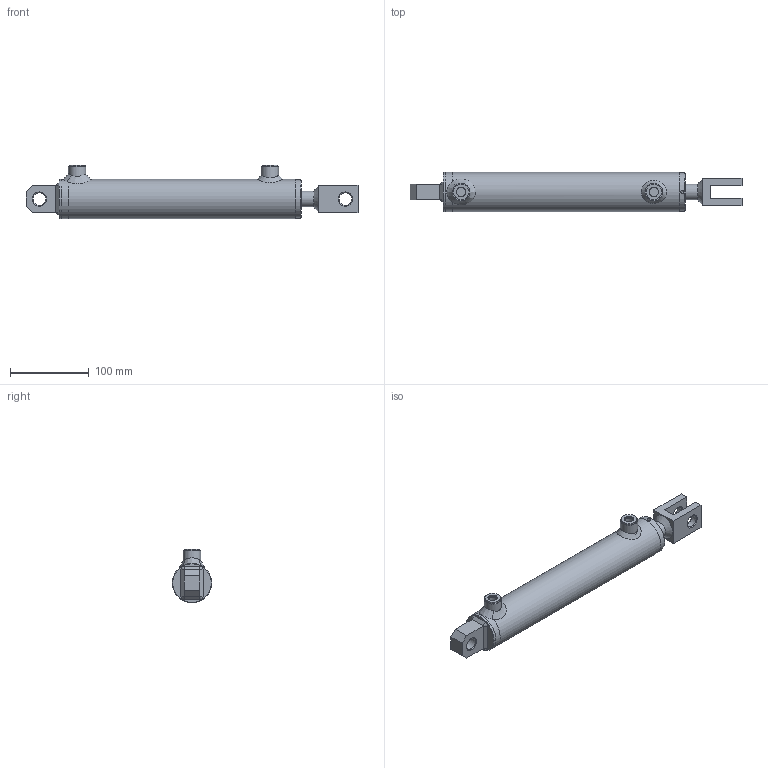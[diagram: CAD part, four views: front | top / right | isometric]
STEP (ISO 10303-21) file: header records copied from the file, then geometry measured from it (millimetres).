
FILE_DESCRIPTION( ( 'Unknown' ), '1' );
FILE_NAME( 'E:/LIBRERIA_3d/CILINDRI/HM5/HM51200200.stp', 'Unknown', ( 'Unknown' ), ( 'Unknown' ), 'PSStep 17.0.49', 'Unknown', ' ' );
FILE_SCHEMA( ( 'AUTOMOTIVE_DESIGN { 1 0 10303 214 1 1 1 1 }' ) );
Length unit declared in the file: millimetre
Products named in the file (26): CT00040015-oa3; CT00040015-oa2; CG05004020; STL1500200-oa8; Saldatura d'angolo 1-oa6; FTM1500200-oa7; CBSC220400; HM01200200; CF00040050; SBL2010200; CDA0001415; Saldatura con preparazione 1-oa4; Saldatura d'angolo 1-oa5; CBS0400000; APG0400000; Assem1; Saldatura d'angolo 1-oa0; Saldatura d'angolo 2-oa1; COF1600000; CFS0000016
Assembly tree (18 placements, depth 4):
  Saldatura d'angolo 1-oa6
  Saldatura d'angolo 1-oa6
  Saldatura d'angolo 1-oa5
  Saldatura d'angolo 1-oa5
  Assem1
    COF1600000
    CFS0000016
    HM01200200
      CF00040050
      SBL2010200
      CDA0001415
      Saldatura con preparazione 1-oa4
      Saldatura con preparazione 1-oa4
      CBS0400000
      APG0400000  x2
      CT00040015-oa3
        CT00040015-oa2
      CG05004020
        CG05004020
      STL1500200-oa8
        FTM1500200-oa7
        CBSC220400
Bounding box: 422 x 50 x 68 mm (x, y, z)
Volume: 466511.5 mm3; surface area: 176653.6 mm2
Topology: 22 solids, 22 shells, 261 faces, 555 edges, 337 vertices
Faces by surface type: plane 86, cylinder 63, cone 46, bspline 34, torus 32
Full cylindrical faces by diameter (mm): 4 x4, 4.25 x3, 7 x2, 11.445 x2, 12 x2, 13.1 x2, 14 x2, 15 x3, 16.2 x3, 19.5 x1, 20 x8, 22 x4, 23 x1, 28 x1, 28.6 x1, 30 x1, 35 x1, 35.4 x2, 38.5 x2, 39.9 x1, 40 x1, 40.3 x1, 40.5 x1, 40.6 x1, 41 x1, 42 x3, 42.5 x1, 44 x1, 49 x1, 50 x4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
Entity records: 11006 total; most frequent: CARTESIAN_POINT 4353, DIRECTION 952, ORIENTED_EDGE 692, EDGE_LOOP 442, AXIS2_PLACEMENT_3D 434, FACE_OUTER_BOUND 350, EDGE_CURVE 346, VERTEX_POINT 287
